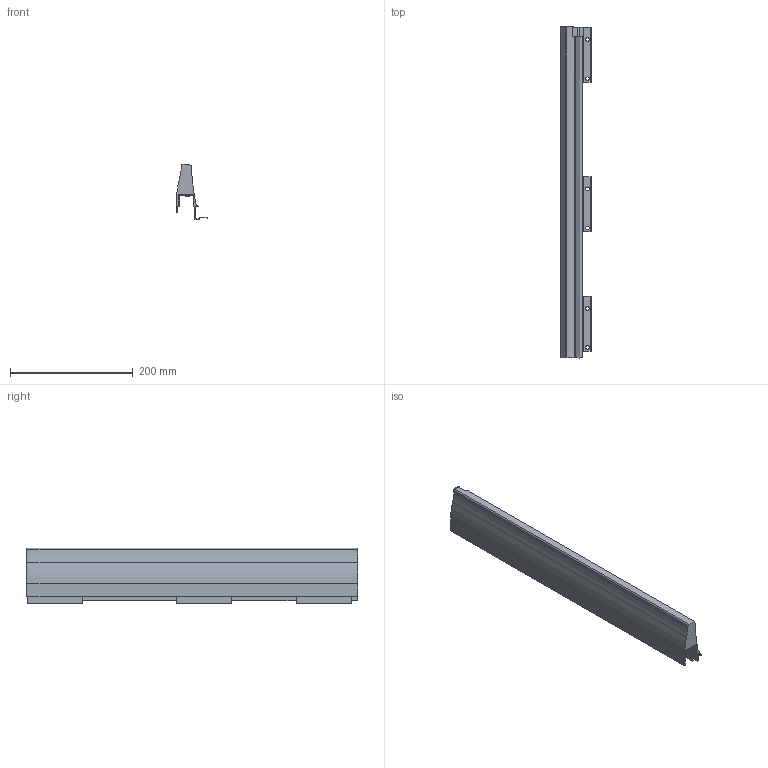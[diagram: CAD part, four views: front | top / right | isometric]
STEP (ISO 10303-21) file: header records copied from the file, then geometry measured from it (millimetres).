
FILE_DESCRIPTION (( 'STEP AP214' ), '1' );
FILE_NAME ('_XP Standard Dekorseite H95 NL550 LI .step', '2010-07-14T06:09:12', ( 'grass' ), ( '' ), 'SwSTEP 2.0', 'SolidWorks 2010', '' );
FILE_SCHEMA (( 'AUTOMOTIVE_DESIGN' ));
Length unit declared in the file: millimetre
Products named in the file (1): _XP Standard Dekorseite H95 NL550 LI  
Bounding box: 50.01 x 541.5 x 90 mm (x, y, z)
Volume: 655831.6 mm3; surface area: 174825.4 mm2
Topology: 1 solids, 1 shells, 133 faces, 390 edges, 254 vertices
Faces by surface type: plane 103, cylinder 30
Entity records: 4433 total; most frequent: ORIENTED_EDGE 780, CARTESIAN_POINT 778, DIRECTION 721, EDGE_CURVE 390, LINE 327, VECTOR 327, VERTEX_POINT 254, AXIS2_PLACEMENT_3D 197
